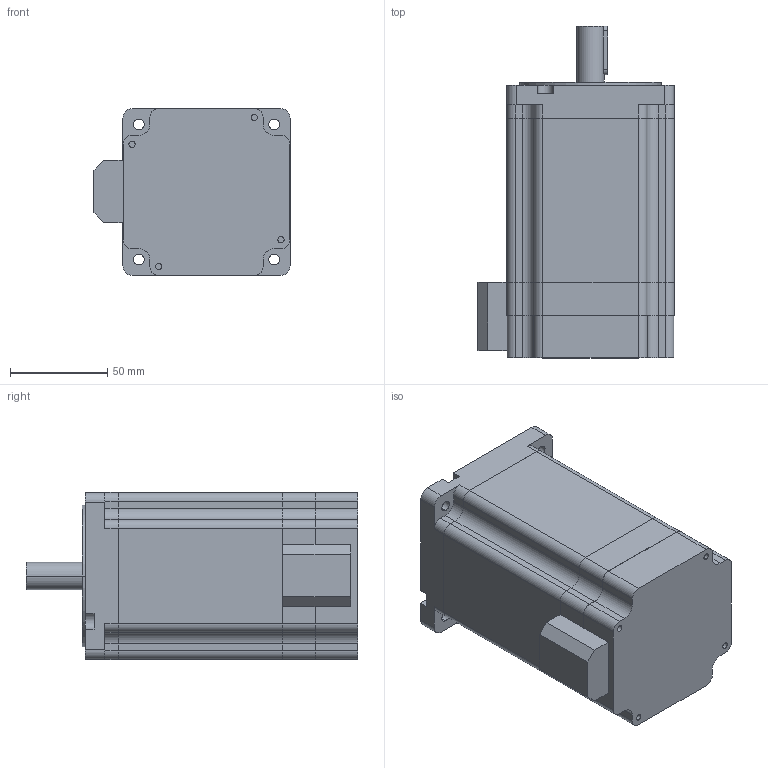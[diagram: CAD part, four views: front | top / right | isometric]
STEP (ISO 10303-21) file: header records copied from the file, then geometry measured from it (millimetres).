
FILE_DESCRIPTION((''),'2;1');
FILE_NAME('AV34TG42DE8001_ASM','2020-12-16T16:33:00',('Edison'),(''),'CREO PARAMETRIC BY PTC INC, 2017260','CREO PARAMETRIC BY PTC INC, 2017260','');
FILE_SCHEMA(('CONFIG_CONTROL_DESIGN'));
Length unit declared in the file: millimetre
Products named in the file (11): DINGZI_8_1; DINGZI_ASM_6_ASM_1_ASM; ENDBELL_4_1; FRONTBELL_6_1_1; FRONTBELL_6_ASM_1_ASM; DIANJI_ASM_7_ASM_1_ASM; PRT0013_1; PRT0015_1; MT34HE31042M8K_ASM_1_ASM; QWEQWE; AV34TG42DE8001_ASM
Assembly tree (10 placements, depth 5):
  AV34TG42DE8001_ASM
    MT34HE31042M8K_ASM_1_ASM
      DIANJI_ASM_7_ASM_1_ASM
        DINGZI_ASM_6_ASM_1_ASM
          DINGZI_8_1
        ENDBELL_4_1
        FRONTBELL_6_ASM_1_ASM
          FRONTBELL_6_1_1
      PRT0013_1
      PRT0015_1
    QWEQWE
Bounding box: 100.92 x 170.8 x 86 mm (x, y, z)
Volume: 470079.7 mm3; surface area: 164348.1 mm2
Topology: 6 solids, 6 shells, 444 faces, 1274 edges, 851 vertices
Faces by surface type: plane 228, cylinder 206, torus 6, cone 4
Entity records: 15062 total; most frequent: CARTESIAN_POINT 2667, DIRECTION 2654, ORIENTED_EDGE 2548, EDGE_CURVE 1274, AXIS2_PLACEMENT_3D 914, VERTEX_POINT 851, VECTOR 826, LINE 826
